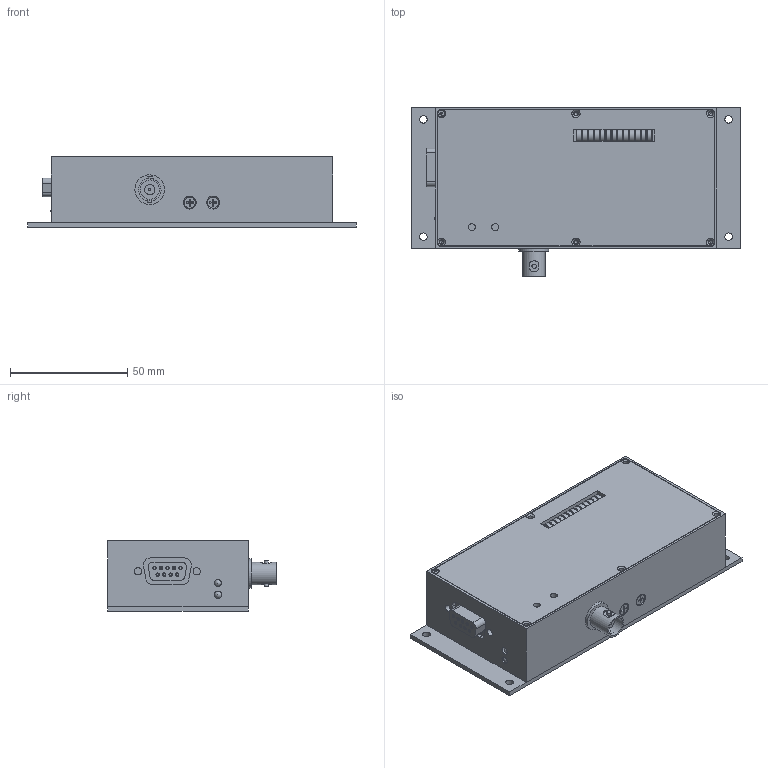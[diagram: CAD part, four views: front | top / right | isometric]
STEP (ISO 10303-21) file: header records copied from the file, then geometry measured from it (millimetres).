
FILE_DESCRIPTION(/* description */ (''),/* implementation_level */ '2;1');
FILE_NAME(/* name */ 'F:\daten\PRODUKTE\TELEMETR\AW\Mechanik\M\Geh_B120xT60xH30\Geh_B120xT60xH30.stp',/* time_stamp */ '2016-05-11T13:32:59+02:00',/* author */ ('marquardt'),/* organization */ (''),/* preprocessor_version */ 'ST-DEVELOPER v16.5',/* originating_system */ 'Autodesk Inventor 2017',/* authorisation */ '');
FILE_SCHEMA (('AUTOMOTIVE_DESIGN { 1 0 10303 214 3 1 1 }'));
Length unit declared in the file: millimetre
Products named in the file (14): Baugruppe; Grundplatte; Gehaeuse; Deckel; Schraube_M2; SW3dPS-BNC Panel Mount; A-DF 09 PP/Z; 3mmLED; 3mmLED_1; LED-BAAR; LED_flach_5mm_LED_Balken_gelb; LED_flach_5mm_LED_Balken_grün; LED_flach_5mm_LED_Balken_rot; ISO 7046-1 - M2,5 x 3 - 4.8 - H
Assembly tree (24 placements, depth 3):
  Baugruppe
    Grundplatte
    Gehaeuse
    Deckel
    Schraube_M2
    SW3dPS-BNC Panel Mount
    A-DF 09 PP/Z
    3mmLED
    3mmLED_1
    LED-BAAR
      LED_flach_5mm_LED_Balken_gelb
      LED_flach_5mm_LED_Balken_grün  x10
      LED_flach_5mm_LED_Balken_rot  x2
    ISO 7046-1 - M2,5 x 3 - 4.8 - H  x2
Bounding box: 140 x 71.95 x 29.99 mm (x, y, z)
Volume: 66191.3 mm3; surface area: 59263.2 mm2
Topology: 23 solids, 23 shells, 534 faces, 1272 edges, 825 vertices
Faces by surface type: plane 247, cylinder 188, cone 62, bspline 26, torus 9, sphere 2
Full cylindrical faces by diameter (mm): 0.65 x9, 0.686 x1, 1 x9, 1.067 x1, 1.54 x9, 1.567 x12, 1.8 x1, 1.88 x2, 2.108 x1, 2.2 x12, 2.224 x2, 2.5 x2, 2.7 x2, 2.9 x1, 3 x3, 3.1 x4, 3.2 x7, 4.318 x1, 4.7 x2, 5.359 x1, 8.255 x1, 9.614 x1, 12.636 x1
Entity records: 11245 total; most frequent: CARTESIAN_POINT 2215, DIRECTION 1854, ORIENTED_EDGE 1492, EDGE_CURVE 746, AXIS2_PLACEMENT_3D 729, EDGE_LOOP 614, VERTEX_POINT 554, LINE 396
